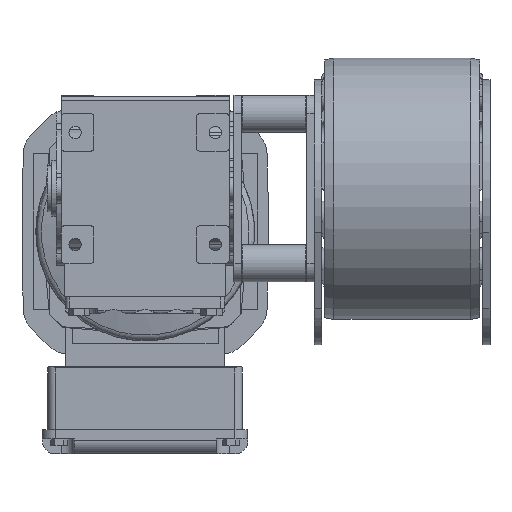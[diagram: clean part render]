
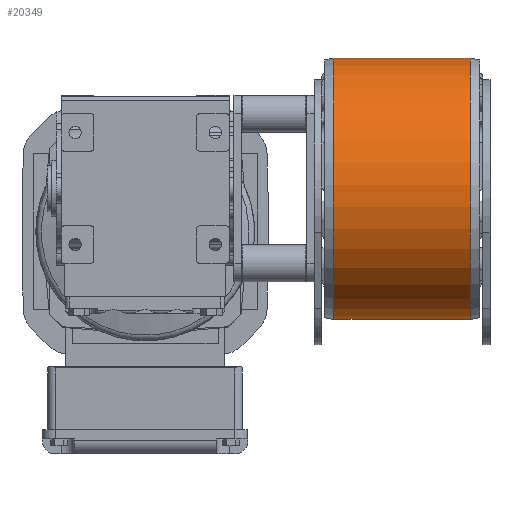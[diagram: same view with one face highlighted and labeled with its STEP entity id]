
A CAD part, front view. The second image highlights one B-rep face of the part: STEP entity #20349.
In plain terms, the highlighted cylindrical face has radius 70 mm (diameter 140 mm), a partial arc.
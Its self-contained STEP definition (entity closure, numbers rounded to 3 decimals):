
#429=CYLINDRICAL_SURFACE('',#21876,70.);
#1172=FACE_OUTER_BOUND('',#2353,.T.);
#2353=EDGE_LOOP('',(#14373,#14374,#14375,#14376));
#3526=CIRCLE('',#21874,70.);
#3528=CIRCLE('',#21877,70.);
#4725=LINE('',#31140,#6586);
#4733=LINE('',#31166,#6594);
#6586=VECTOR('',#24894,10.);
#6594=VECTOR('',#24922,10.);
#8468=VERTEX_POINT('',#31132);
#8470=VERTEX_POINT('',#31138);
#8476=VERTEX_POINT('',#31158);
#8478=VERTEX_POINT('',#31164);
#10697=EDGE_CURVE('',#8468,#8470,#4725,.T.);
#10706=EDGE_CURVE('',#8476,#8468,#3526,.T.);
#10709=EDGE_CURVE('',#8478,#8470,#3528,.T.);
#10710=EDGE_CURVE('',#8476,#8478,#4733,.T.);
#14373=ORIENTED_EDGE('',*,*,#10697,.T.);
#14374=ORIENTED_EDGE('',*,*,#10709,.F.);
#14375=ORIENTED_EDGE('',*,*,#10710,.F.);
#14376=ORIENTED_EDGE('',*,*,#10706,.T.);
#20349=ADVANCED_FACE('',(#1172),#429,.T.);
#21874=AXIS2_PLACEMENT_3D('',#31159,#24913,#24914);
#21876=AXIS2_PLACEMENT_3D('',#31163,#24918,#24919);
#21877=AXIS2_PLACEMENT_3D('',#31165,#24920,#24921);
#24894=DIRECTION('',(1.,0.,0.));
#24913=DIRECTION('center_axis',(1.,0.,0.));
#24914=DIRECTION('ref_axis',(0.,0.,
1.));
#24918=DIRECTION('center_axis',(1.,0.,0.));
#24919=DIRECTION('ref_axis',(0.,-0.99,-0.139));
#24920=DIRECTION('center_axis',(1.,0.,0.));
#24921=DIRECTION('ref_axis',(0.,0.,
1.));
#24922=DIRECTION('',(1.,0.,0.));
#31132=CARTESIAN_POINT('',(-382.941,-698.577,-49.045));
#31138=CARTESIAN_POINT('',(-309.941,-698.577,-49.045));
#31140=CARTESIAN_POINT('',(-309.941,-698.577,-49.045));
#31158=CARTESIAN_POINT('',(-382.941,-717.828,88.256));
#31159=CARTESIAN_POINT('Origin',(-382.941,-717.828,18.256));
#31163=CARTESIAN_POINT('Origin',(-346.441,-717.828,18.256));
#31164=CARTESIAN_POINT('',(-309.941,-717.828,88.256));
#31165=CARTESIAN_POINT('Origin',(-309.941,-717.828,18.256));
#31166=CARTESIAN_POINT('',(-309.941,-717.828,88.256));
